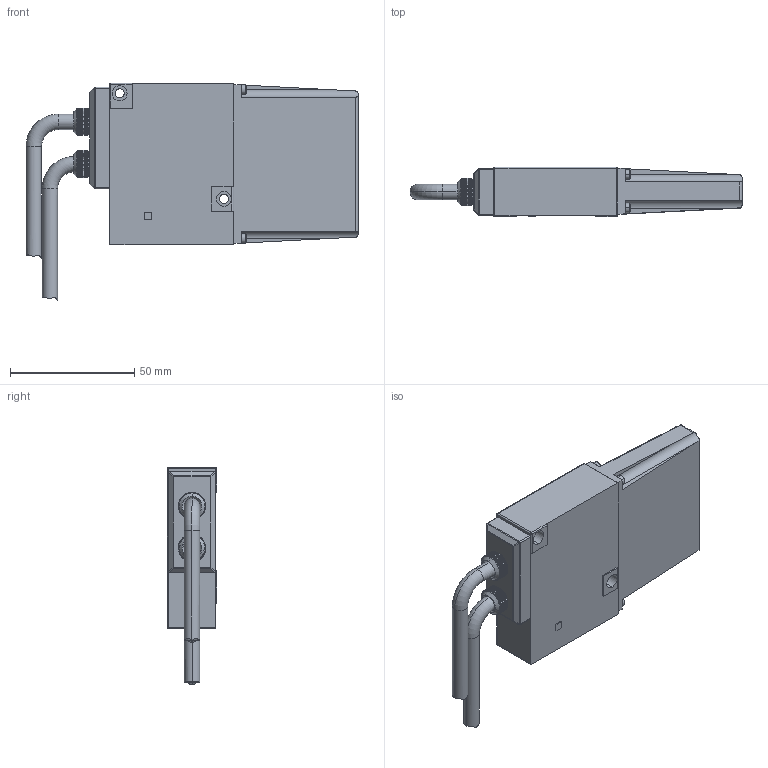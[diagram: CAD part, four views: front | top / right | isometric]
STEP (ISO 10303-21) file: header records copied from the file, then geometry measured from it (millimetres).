
FILE_DESCRIPTION (( 'STEP AP203' ), '1' );
FILE_NAME ('RF603_2CG + Áëåíäà.STEP', '2011-03-17T08:13:39', ( 'Ñåðãåé Ì' ), ( '' ), 'SwSTEP 2.0', 'SolidWorks 2009', '' );
FILE_SCHEMA (( 'CONFIG_CONTROL_DESIGN' ));
Length unit declared in the file: millimetre
Products named in the file (8): RF603_2CG + 鍛樇魡; RF603.00.04; RF603.00.51; ISO 14581_Ì2õ4_Default; DIN 912 _Ì2õ6_Default; RF603.00.82; RF605.00.026; RF603.00.81
Assembly tree (14 placements, depth 2):
  RF603_2CG + 鍛樇魡
    RF603.00.82
    DIN 912 _Ì2õ6_Default  x4
    RF605.00.026  x2
    ISO 14581_Ì2õ4_Default  x3
    RF603.00.51
    RF603.00.04
    RF603.00.81  x2
Bounding box: 133.7 x 20 x 87.5 mm (x, y, z)
Volume: 88440.1 mm3; surface area: 33622.1 mm2
Topology: 14 solids, 14 shells, 747 faces, 1976 edges, 1266 vertices
Faces by surface type: plane 408, cylinder 258, cone 54, sphere 13, torus 12, bspline 2
Entity records: 14978 total; most frequent: CARTESIAN_POINT 3268, ORIENTED_EDGE 2298, DIRECTION 2164, EDGE_CURVE 1149, AXIS2_PLACEMENT_3D 818, VERTEX_POINT 738, LINE 528, VECTOR 528
